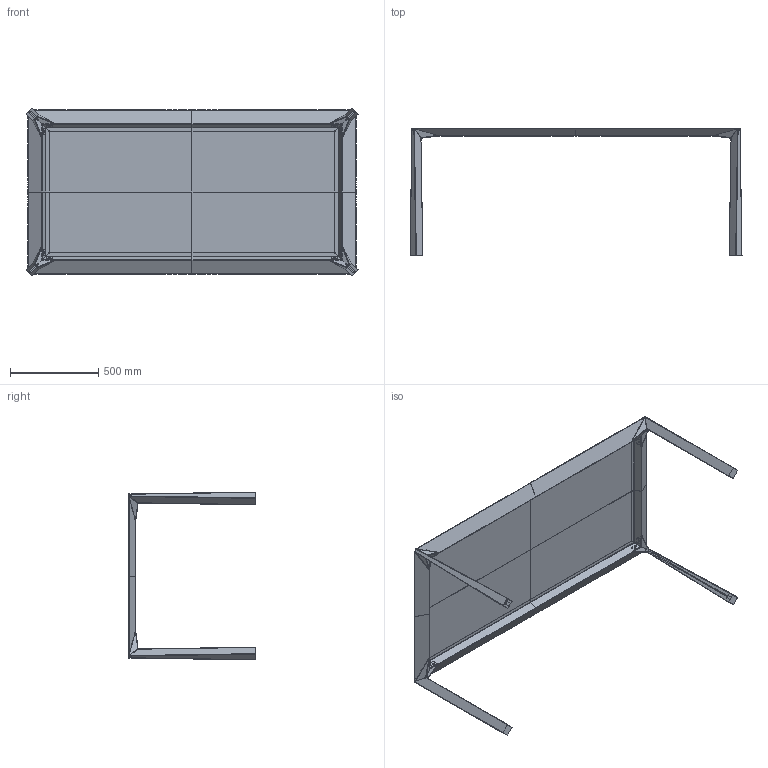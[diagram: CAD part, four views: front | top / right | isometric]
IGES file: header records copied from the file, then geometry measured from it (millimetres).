
Start section:  PTC IGES file: ovidio_asm.igs
Global section: file name: /Users/matteo_studiocdb02/Desktop/SPACE 3d (2)/Ovidio/ovidio 186x93x72h 3D.igs; native system: Rhinoceros ( Oct 18 2012 ); preprocessor: Trout Lake IGES 012 Oct 18 2012; date: 121112.163404; units: millimetre
Bounding box: 1881.92 x 721.53 x 951.92 mm (x, y, z)
Surface area: 6004107.7 mm2 (no closed solid volume)
Topology: 0 solids, 0 shells, 1164 faces, 6248 edges, 6248 vertices
Faces by surface type: bspline 1164
